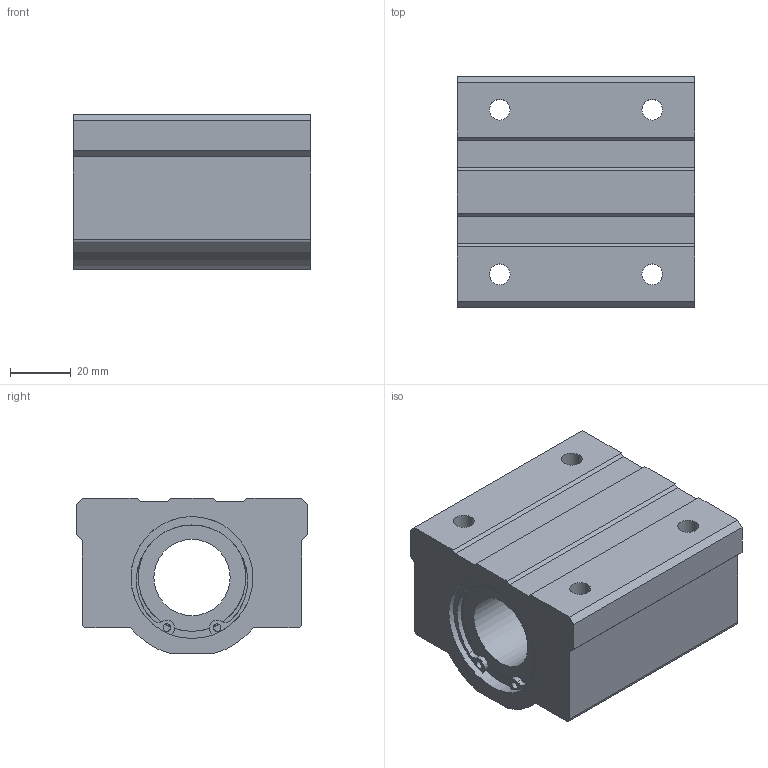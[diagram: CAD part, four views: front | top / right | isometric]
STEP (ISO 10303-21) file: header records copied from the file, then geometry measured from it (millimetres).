
FILE_DESCRIPTION((''),'2;1');
FILE_NAME('D:\製品 (図面)\カタログ用3D\メンテナンスフリー関連\STEP形式\LH-MF\LH25MF.stp','2010-06-01T16:09:41',('Tsuchiya'),(''),'Autodesk Inventor 10','Autodesk Inventor 10','');
FILE_SCHEMA(('AUTOMOTIVE_DESIGN { 1 0 10303 214 1 1 1 1 }'));
Length unit declared in the file: millimetre
Products named in the file (1): LH25MF
Bounding box: 78 x 76 x 51 mm (x, y, z)
Volume: 210406.9 mm3; surface area: 35656.5 mm2
Topology: 1 solids, 3 shells, 81 faces, 215 edges, 138 vertices
Faces by surface type: plane 44, cylinder 20, bspline 17
Full cylindrical faces by diameter (mm): 2.5 x2, 25 x1, 35.3 x2, 38 x2, 40 x4
Entity records: 2552 total; most frequent: CARTESIAN_POINT 599, DIRECTION 414, ORIENTED_EDGE 372, EDGE_CURVE 186, AXIS2_PLACEMENT_3D 163, VERTEX_POINT 126, EDGE_LOOP 118, CIRCLE 98
